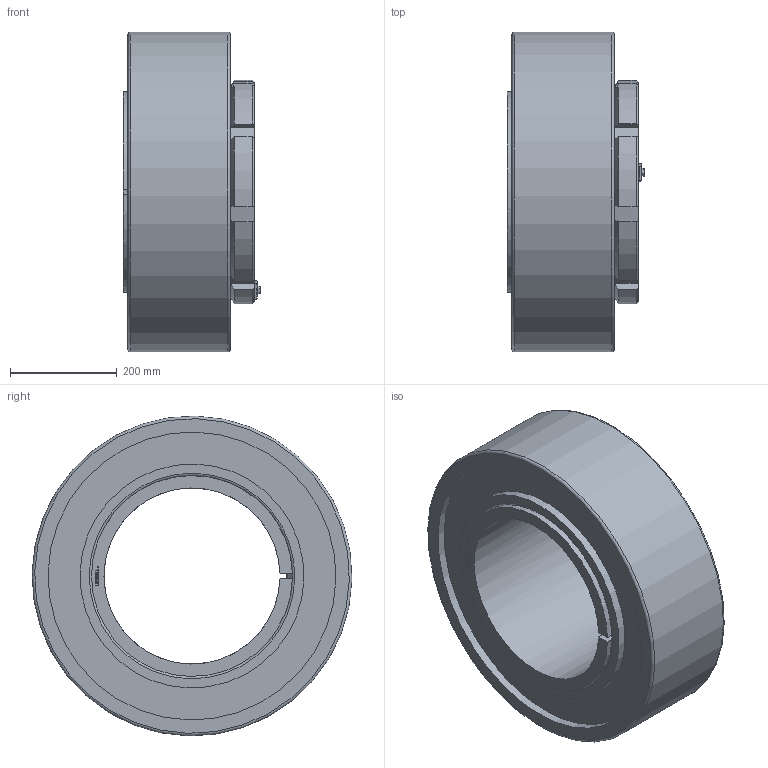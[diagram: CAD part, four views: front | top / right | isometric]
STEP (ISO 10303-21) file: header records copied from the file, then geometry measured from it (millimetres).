
FILE_DESCRIPTION( ( 'STEP AP203' ), ' ' );
FILE_NAME( 'p:/temp/worker_352/4084_4976/app_90_02016102823081615913829192d056f_000000_00_00_000000/format_0/BGL HE 3172 TL+23172K.stp', '2016-10-28T21:08:18', ( '' ), ( '' ), ' ', 'PARTsolutions', ' ' );
FILE_SCHEMA( ( 'CONFIG_CONTROL_DESIGN' ) );
Length unit declared in the file: millimetre
Products named in the file (6): BGL HE 3172 TL+23172K; _BGLHE3172TLB; _BGL HM 3072; _BGLHE3172TL+HE-23172K; _BGL MS 3072part; _BGL MS 3072HHS
Assembly tree (5 placements, depth 2):
  BGL HE 3172 TL+23172K
    _BGLHE3172TLB
    _BGL HM 3072
    _BGLHE3172TL+HE-23172K
    _BGL MS 3072part
    _BGL MS 3072HHS
Bounding box: 258.05 x 599.79 x 599.79 mm (x, y, z)
Volume: 37304236 mm3; surface area: 1788961.3 mm2
Topology: 5 solids, 5 shells, 351 faces, 899 edges, 589 vertices
Faces by surface type: plane 230, cylinder 79, cone 38, torus 4
Full cylindrical faces by diameter (mm): 8 x9, 9 x1, 14.8 x1, 355 x1, 420 x2, 540 x2, 600 x1
Entity records: 10762 total; most frequent: CARTESIAN_POINT 2104, DIRECTION 1729, ORIENTED_EDGE 1726, EDGE_CURVE 863, VERTEX_POINT 586, AXIS2_PLACEMENT_3D 577, LINE 575, VECTOR 575
